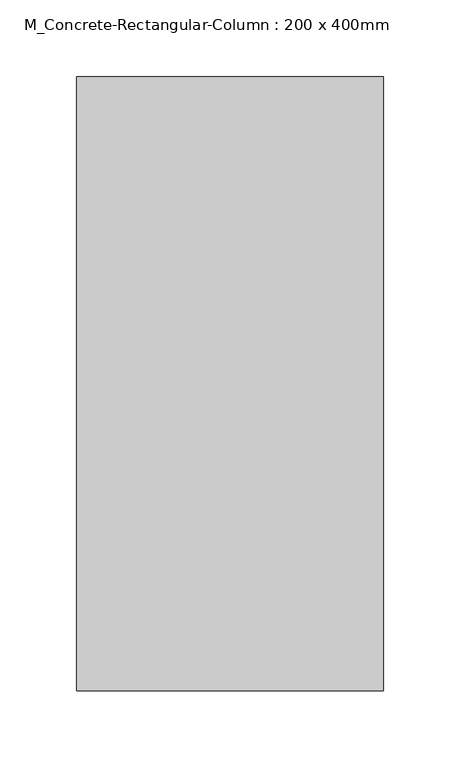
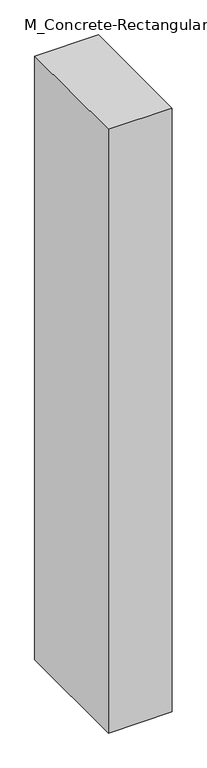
"""IFC4 building model written with IfcOpenShell, lengths in millimetres: column geometry, M_Concrete-Rectangular-Column : 200 x 400mm."""

import ifcopenshell
import ifcopenshell.guid

model = None  # the IFC model being written
_history = None  # IfcOwnerHistory: only IFC2X3 demands one
_inside = {}  # id of a spatial element -> (the spatial element, [elements in it])
_under = {}  # id of a project, library or spatial element -> (it, [spatial elements below it])
_declared = {}  # id of a project -> (the project, [libraries it declares])
_typed = {}  # id of a type object -> (the type object, [elements of that type])
_made_of = {}  # id of a material, layer set ... -> (it, [elements and type objects made of it])


def new_model(schema):
    """Start an empty IFC model of exactly this schema.

    Asked for "IFC4X3", IfcOpenShell would pick the latest addendum, in which some entities
    have other attributes; the version numbers below select the first issue.
    IFC2X3 requires an IfcOwnerHistory on every rooted entity: one is made here for all.
    """
    global model, _history
    if schema == "IFC4X3":
        model = ifcopenshell.file(schema_version=(4, 3, 0, 0))
    else:
        model = ifcopenshell.file(schema=schema)
    _inside.clear()
    _under.clear()
    _declared.clear()
    _typed.clear()
    _made_of.clear()
    _history = None
    if model.schema == "IFC2X3":
        org = make("IfcOrganization", Name="unknown")
        user = make(
            "IfcPersonAndOrganization",
            ThePerson=make("IfcPerson", FamilyName="unknown"),
            TheOrganization=org,
        )
        app = make(
            "IfcApplication",
            ApplicationDeveloper=org,
            Version="unknown",
            ApplicationFullName="unknown",
            ApplicationIdentifier="unknown",
        )
        _history = make(
            "IfcOwnerHistory",
            OwningUser=user,
            OwningApplication=app,
            ChangeAction="ADDED",
            CreationDate=0,
        )
    return model


def make(cls, **values):
    """One entity of the class cls with the attributes given. An attribute that is None is left unset."""
    return model.create_entity(
        cls, **{name: value for name, value in values.items() if value is not None}
    )


def rooted(cls, **values):
    """An entity with a GlobalId (a new one), such as an element, a storey or a relation."""
    return make(cls, GlobalId=ifcopenshell.guid.new(), OwnerHistory=_history, **values)


def si_unit(unit_type, name, prefix=None):
    """IfcSIUnit, for example si_unit("LENGTHUNIT", "METRE", prefix="MILLI")."""
    return make("IfcSIUnit", UnitType=unit_type, Prefix=prefix, Name=name)


def assignment(units):
    """IfcUnitAssignment: the units of a project."""
    return None if units is None else make("IfcUnitAssignment", Units=units)


def point(xyz):
    """IfcCartesianPoint."""
    return None if xyz is None else make("IfcCartesianPoint", Coordinates=xyz)


def direction(xyz):
    """IfcDirection."""
    return None if xyz is None else make("IfcDirection", DirectionRatios=xyz)


def frame(location, z_axis=None, x_axis=None):
    """IfcAxis2Placement3D, a coordinate frame: its origin and axes. An axis left out is left unset."""
    return make(
        "IfcAxis2Placement3D",
        Location=point(location),
        Axis=direction(z_axis),
        RefDirection=direction(x_axis),
    )


def origin():
    """The frame at (0, 0, 0) with its axes left unset."""
    return frame((0.0, 0.0, 0.0))


def place(relative_to, where):
    """IfcLocalPlacement: puts the frame where relative to a parent placement (None: the world)."""
    return make(
        "IfcLocalPlacement", PlacementRelTo=relative_to, RelativePlacement=where
    )


def context(
    kind, dimensions, precision=None, world=None, true_north=None, identifier=None
):
    """IfcGeometricRepresentationContext, for example the 3D "Model" context."""
    return make(
        "IfcGeometricRepresentationContext",
        ContextIdentifier=identifier,
        ContextType=kind,
        CoordinateSpaceDimension=dimensions,
        Precision=precision,
        WorldCoordinateSystem=world,
        TrueNorth=true_north,
    )


def project(units=None, contexts=None):
    """IfcProject with its units and contexts."""
    return rooted(
        "IfcProject",
        Name="project",
        RepresentationContexts=contexts,
        UnitsInContext=assignment(units),
    )


def spatial(cls, under=None, at=None, **own):
    """A site, building, storey or space (cls), placed at a placement, below another one or the project."""
    s = rooted(cls, ObjectPlacement=at, **own)
    if under is not None:
        _under.setdefault(under.id(), (under, []))[1].append(s)
    return s


def polyline(points):
    """IfcPolyline through the points."""
    return make("IfcPolyline", Points=[point(p) for p in points])


def outline(outer, holes=None, kind="AREA"):
    """IfcArbitraryClosedProfileDef: a profile drawn as a closed curve; with holes, ...WithVoids."""
    if holes is None:
        return make("IfcArbitraryClosedProfileDef", ProfileType=kind, OuterCurve=outer)
    return make(
        "IfcArbitraryProfileDefWithVoids",
        ProfileType=kind,
        OuterCurve=outer,
        InnerCurves=holes,
    )


def extrude(swept, where, along, depth):
    """IfcExtrudedAreaSolid: the profile swept, set in the frame where, extruded along a direction by depth."""
    return make(
        "IfcExtrudedAreaSolid",
        SweptArea=swept,
        Position=where,
        ExtrudedDirection=direction(along),
        Depth=depth,
    )


def shape(context_of_items, identifier, shape_type, items):
    """IfcShapeRepresentation: the items that make up one representation, for example the "Body"."""
    return make(
        "IfcShapeRepresentation",
        ContextOfItems=context_of_items,
        RepresentationIdentifier=identifier,
        RepresentationType=shape_type,
        Items=items,
    )


def source(mapping_origin, context_of_items, identifier, shape_type, items):
    """IfcRepresentationMap: a shape defined once, which mapped items show again and again."""
    return make(
        "IfcRepresentationMap",
        MappingOrigin=mapping_origin,
        MappedRepresentation=shape(context_of_items, identifier, shape_type, items),
    )


def transform(
    local_origin,
    x_axis=None,
    y_axis=None,
    z_axis=None,
    scale=None,
    scale2=None,
    scale3=None,
    uniform=True,
):
    """IfcCartesianTransformationOperator3D, or its non-uniform kind. x_axis, y_axis, z_axis: its Axis1, 2, 3."""
    if uniform:
        return make(
            "IfcCartesianTransformationOperator3D",
            Axis1=direction(x_axis),
            Axis2=direction(y_axis),
            LocalOrigin=point(local_origin),
            Scale=scale,
            Axis3=direction(z_axis),
        )
    return make(
        "IfcCartesianTransformationOperator3DnonUniform",
        Axis1=direction(x_axis),
        Axis2=direction(y_axis),
        LocalOrigin=point(local_origin),
        Scale=scale,
        Axis3=direction(z_axis),
        Scale2=scale2,
        Scale3=scale3,
    )


def mapped(mapping_source, mapping_target):
    """IfcMappedItem: shows the shape of a source again, moved by a transform."""
    return make(
        "IfcMappedItem", MappingSource=mapping_source, MappingTarget=mapping_target
    )


def made_of(thing, what):
    """Note that an element or type object is made of a material, layer set ...; save() writes the relation."""
    if what is not None:
        _made_of.setdefault(what.id(), (what, []))[1].append(thing)
    return thing


def element(
    cls,
    number,
    at=None,
    inside=None,
    cuts=None,
    type_object=None,
    material=None,
    context=None,
    identifier="Body",
    shape_type=None,
    held_by="IfcProductDefinitionShape",
    body=None,
    shapes=None,
    **own,
):
    """One element of the class cls, such as IfcWall. Its Tag is "e" and its number.

    at: its placement. inside: the storey or other place that contains it. cuts: it is an
    opening in that element (IfcRelVoidsElement). A single representation is given by context,
    identifier, shape_type and body (its items); several are given by shapes. held_by: the class
    of the entity that holds the representations. save() writes the other relations.
    """
    e = rooted(cls, Tag="e%d" % number, ObjectPlacement=at, **own)
    if body is not None:
        shapes = [shape(context, identifier, shape_type, body)]
    if shapes is not None:
        e.Representation = make(held_by, Representations=shapes)
    if inside is not None:
        _inside.setdefault(inside.id(), (inside, []))[1].append(e)
    if cuts is not None:
        rooted(
            "IfcRelVoidsElement", RelatingBuildingElement=cuts, RelatedOpeningElement=e
        )
    if type_object is not None:
        _typed.setdefault(type_object.id(), (type_object, []))[1].append(e)
    return made_of(e, material)


def aggregate(whole, parts):
    """IfcRelAggregates: a whole, such as a stair, and the parts it consists of."""
    return rooted("IfcRelAggregates", RelatingObject=whole, RelatedObjects=parts)


def save(model, path):
    """Write the relations noted so far, then the file.

    IfcRelAggregates (storeys below a building ...), IfcRelContainedInSpatialStructure (elements
    in a storey), IfcRelDefinesByType, IfcRelAssociatesMaterial and IfcRelDeclares: one each for
    every whole, place, type object, material and project.
    """
    for whole, parts in _under.values():
        aggregate(whole, parts)
    for where, things in _inside.values():
        rooted(
            "IfcRelContainedInSpatialStructure",
            RelatedElements=things,
            RelatingStructure=where,
        )
    for kind, things in _typed.values():
        rooted("IfcRelDefinesByType", RelatedObjects=things, RelatingType=kind)
    for what, things in _made_of.values():
        rooted("IfcRelAssociatesMaterial", RelatedObjects=things, RelatingMaterial=what)
    for by, libraries in _declared.values():
        rooted("IfcRelDeclares", RelatingContext=by, RelatedDefinitions=libraries)
    model.write(path)


def m_concrete_rectangular_column_200_x_400mm_db319ea8(model_context):
    return source(origin(), model_context, "Body", "SweptSolid", [
        extrude(outline(polyline([(100.0, 200.0), (100.0, -200.0), (-100.0, -200.0), (-100.0, 200.0), (100.0, 200.0)])), frame((0.0, 0.0, -2000.0), z_axis=(0.0, 0.0, 1.0), x_axis=(1.0, 0.0, 0.0)), (0.0, 0.0, 1.0), 2000.0),
    ])


if __name__ == "__main__":
    model = new_model("IFC4")
    model_context = context("Model", 3, world=origin())
    ifc_project = project(units=[si_unit("LENGTHUNIT", "METRE", prefix="MILLI")], contexts=[model_context])
    site = spatial("IfcSite", under=ifc_project)
    building = spatial("IfcBuilding", under=site)
    placement = place(None, origin())
    m_concrete_rectangular_column_200_x_400mm_shape = m_concrete_rectangular_column_200_x_400mm_db319ea8(model_context)
    element("IfcColumn", 1, ObjectType="M_Concrete-Rectangular-Column : 200 x 400mm", at=placement, inside=building, context=model_context, shape_type="MappedRepresentation", body=[
        mapped(m_concrete_rectangular_column_200_x_400mm_shape, transform((0.0, 0.0, 0.0), x_axis=(1.0, 0.0, 0.0), y_axis=(0.0, 1.0, 0.0), z_axis=(0.0, 0.0, 1.0))),
    ])
    save(model, "model.ifc")
